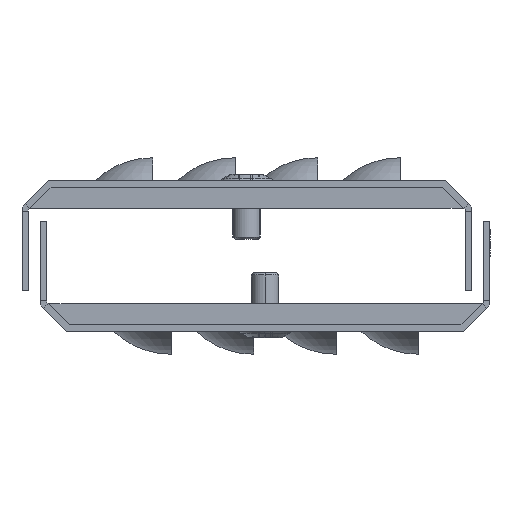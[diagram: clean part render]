
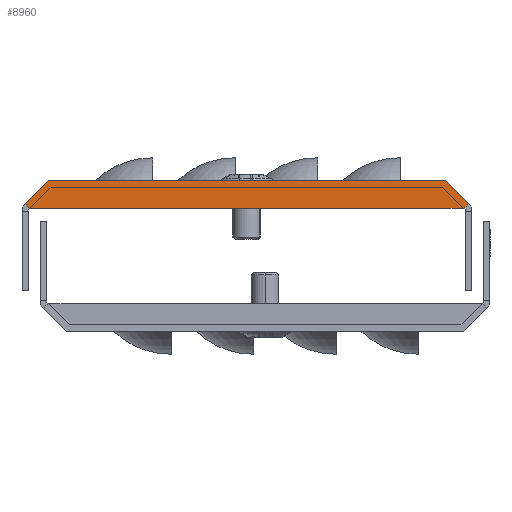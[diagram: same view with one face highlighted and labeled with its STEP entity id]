
A CAD part, left-side view. The second image highlights one B-rep face of the part: STEP entity #8960.
In plain terms, the highlighted planar face has unit normal (-1, 0, 0).
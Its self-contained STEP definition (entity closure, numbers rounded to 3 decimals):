
#816 = VECTOR ( 'NONE', #2069, 1000. ) ;
#1146 = DIRECTION ( 'NONE',  ( 0., -1., 0. ) ) ;
#1252 = LINE ( 'NONE', #2642, #6814 ) ;
#1257 = CARTESIAN_POINT ( 'NONE',  ( -795., -92.356, 0. ) ) ;
#1502 = VERTEX_POINT ( 'NONE', #11786 ) ;
#1606 = ORIENTED_EDGE ( 'NONE', *, *, #15368, .T. ) ;
#1871 = DIRECTION ( 'NONE',  ( 0., -0.707, 0.707 ) ) ;
#1910 = VERTEX_POINT ( 'NONE', #5007 ) ;
#2069 = DIRECTION ( 'NONE',  ( 0., -1., 0. ) ) ;
#2149 = EDGE_CURVE ( 'NONE', #10413, #4598, #1252, .T. ) ;
#2275 = EDGE_CURVE ( 'NONE', #11791, #6777, #14903, .T. ) ;
#2642 = CARTESIAN_POINT ( 'NONE',  ( -795., -92.356, 0. ) ) ;
#2949 = EDGE_CURVE ( 'NONE', #1502, #13778, #10827, .T. ) ;
#2992 = CARTESIAN_POINT ( 'NONE',  ( -795., -96.413, -6.037 ) ) ;
#3162 = CARTESIAN_POINT ( 'NONE',  ( -795., -1.693, -6.037 ) ) ;
#3316 = LINE ( 'NONE', #3162, #816 ) ;
#3624 = LINE ( 'NONE', #7179, #5604 ) ;
#3736 = VERTEX_POINT ( 'NONE', #8233 ) ;
#4146 = VECTOR ( 'NONE', #1146, 1000. ) ;
#4223 = EDGE_LOOP ( 'NONE', ( #7355, #1606, #6205, #7223, #5717, #8603, #5181, #11437 ) ) ;
#4415 = FACE_OUTER_BOUND ( 'NONE', #4223, .T. ) ;
#4547 = EDGE_CURVE ( 'NONE', #3736, #1910, #3624, .T. ) ;
#4598 = VERTEX_POINT ( 'NONE', #4809 ) ;
#4809 = CARTESIAN_POINT ( 'NONE',  ( -795., -5.75, 0. ) ) ;
#4910 = CARTESIAN_POINT ( 'NONE',  ( -795., -96.249, -6.037 ) ) ;
#5002 = EDGE_CURVE ( 'NONE', #13778, #11791, #9867, .T. ) ;
#5007 = CARTESIAN_POINT ( 'NONE',  ( -795., -1.693, -6.037 ) ) ;
#5181 = ORIENTED_EDGE ( 'NONE', *, *, #2149, .T. ) ;
#5290 = EDGE_CURVE ( 'NONE', #4598, #3736, #12895, .T. ) ;
#5364 = DIRECTION ( 'NONE',  ( 0., -1., 0. ) ) ;
#5451 = VECTOR ( 'NONE', #13211, 1000. ) ;
#5550 = PLANE ( 'NONE',  #7816 ) ;
#5604 = VECTOR ( 'NONE', #6013, 1000. ) ;
#5620 = DIRECTION ( 'NONE',  ( 0., -1., 0. ) ) ;
#5635 = CARTESIAN_POINT ( 'NONE',  ( -795., -97.403, -5.047 ) ) ;
#5717 = ORIENTED_EDGE ( 'NONE', *, *, #2275, .T. ) ;
#6013 = DIRECTION ( 'NONE',  ( 0., -0.707, -0.707 ) ) ;
#6205 = ORIENTED_EDGE ( 'NONE', *, *, #2949, .T. ) ;
#6777 = VERTEX_POINT ( 'NONE', #5635 ) ;
#6814 = VECTOR ( 'NONE', #13205, 1000. ) ;
#7059 = CARTESIAN_POINT ( 'NONE',  ( -795., -5.75, 0. ) ) ;
#7179 = CARTESIAN_POINT ( 'NONE',  ( -795., -0.703, -5.047 ) ) ;
#7223 = ORIENTED_EDGE ( 'NONE', *, *, #5002, .T. ) ;
#7246 = CARTESIAN_POINT ( 'NONE',  ( -795., -49.053, -6.037 ) ) ;
#7355 = ORIENTED_EDGE ( 'NONE', *, *, #4547, .T. ) ;
#7816 = AXIS2_PLACEMENT_3D ( 'NONE', #12636, #11392, #5620 ) ;
#8233 = CARTESIAN_POINT ( 'NONE',  ( -795., -0.703, -5.047 ) ) ;
#8603 = ORIENTED_EDGE ( 'NONE', *, *, #13781, .T. ) ;
#8810 = VECTOR ( 'NONE', #1871, 1000. ) ;
#8904 = VECTOR ( 'NONE', #11801, 1000. ) ;
#8960 = ADVANCED_FACE ( 'NONE', ( #4415 ), #5550, .F. ) ;
#9867 = LINE ( 'NONE', #14614, #15110 ) ;
#10413 = VERTEX_POINT ( 'NONE', #13129 ) ;
#10625 = LINE ( 'NONE', #1257, #5451 ) ;
#10827 = LINE ( 'NONE', #7246, #4146 ) ;
#11392 = DIRECTION ( 'NONE',  ( 1., 0., 0. ) ) ;
#11437 = ORIENTED_EDGE ( 'NONE', *, *, #5290, .T. ) ;
#11786 = CARTESIAN_POINT ( 'NONE',  ( -795., -1.857, -6.037 ) ) ;
#11791 = VERTEX_POINT ( 'NONE', #2992 ) ;
#11801 = DIRECTION ( 'NONE',  ( 0., 0.707, -0.707 ) ) ;
#12267 = CARTESIAN_POINT ( 'NONE',  ( -795., -96.413, -6.037 ) ) ;
#12636 = CARTESIAN_POINT ( 'NONE',  ( -795., -6.744, -2.4 ) ) ;
#12895 = LINE ( 'NONE', #7059, #8904 ) ;
#13129 = CARTESIAN_POINT ( 'NONE',  ( -795., -92.356, 0. ) ) ;
#13205 = DIRECTION ( 'NONE',  ( 0., 1., 0. ) ) ;
#13211 = DIRECTION ( 'NONE',  ( 0., 0.707, 0.707 ) ) ;
#13778 = VERTEX_POINT ( 'NONE', #4910 ) ;
#13781 = EDGE_CURVE ( 'NONE', #6777, #10413, #10625, .T. ) ;
#14614 = CARTESIAN_POINT ( 'NONE',  ( -795., -96.413, -6.037 ) ) ;
#14903 = LINE ( 'NONE', #12267, #8810 ) ;
#15110 = VECTOR ( 'NONE', #5364, 1000. ) ;
#15368 = EDGE_CURVE ( 'NONE', #1910, #1502, #3316, .T. ) ;
